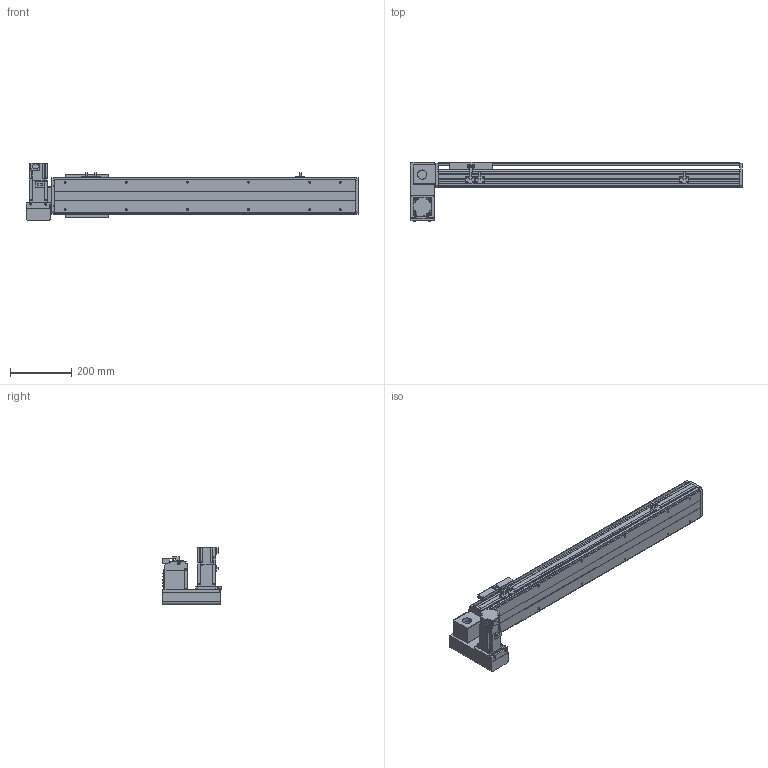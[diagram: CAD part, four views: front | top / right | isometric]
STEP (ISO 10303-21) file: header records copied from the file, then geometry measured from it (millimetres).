
FILE_DESCRIPTION(/* description */ ('STEP AP214'),/* implementation_level */ '2;1');
FILE_NAME(/* name */ 'PBS120-P40-S700-LD-T40-C1-N(0)',/* time_stamp */ '2022-06-06T02:16:03+02:00',/* author */ ('License CC BY-ND 4.0'),/* organization */ ('CADENAS'),/* preprocessor_version */ 'ST-DEVELOPER v18.102',/* originating_system */ 'PARTsolutions',/* authorisation */ ' ');
FILE_SCHEMA (('AUTOMOTIVE_DESIGN {1 0 10303 214 3 1 1}'));
Length unit declared in the file: millimetre
Products named in the file (7): PBS120-P40-S700-LD-T40-C1-N(0); PBS120_sensor; PBS120_plant; PBS120_sliser; T40-p1; PBS120T-LD_motors; PBS120-S700()_body
Assembly tree (8 placements, depth 2):
  PBS120-P40-S700-LD-T40-C1-N(0)
    PBS120_sensor  x3
    PBS120_plant
    PBS120_sliser
    T40-p1
    PBS120T-LD_motors
    PBS120-S700()_body
Bounding box: 1086 x 196 x 189.7 mm (x, y, z)
Volume: 4984705 mm3; surface area: 948371.7 mm2
Topology: 8 solids, 8 shells, 816 faces, 2136 edges, 1375 vertices
Faces by surface type: plane 545, cylinder 225, cone 44, torus 2
Full cylindrical faces by diameter (mm): 2.459 x6, 3.242 x4, 4 x2, 4.134 x4, 4.5 x10, 4.917 x16, 5.5 x11, 6 x2, 6.6 x1, 7 x2, 8.5 x4, 9 x4, 12 x1, 14 x1, 30 x2, 40 x1, 50 x2
Entity records: 21354 total; most frequent: DIRECTION 3692, CARTESIAN_POINT 3641, ORIENTED_EDGE 3478, EDGE_CURVE 1739, AXIS2_PLACEMENT_3D 1232, LINE 1228, VECTOR 1228, VERTEX_POINT 1181
